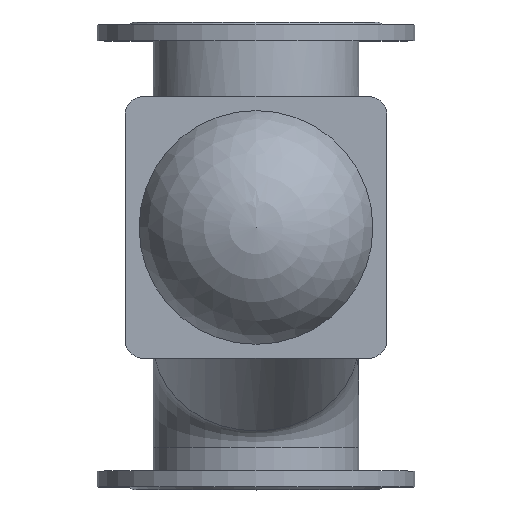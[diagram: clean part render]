
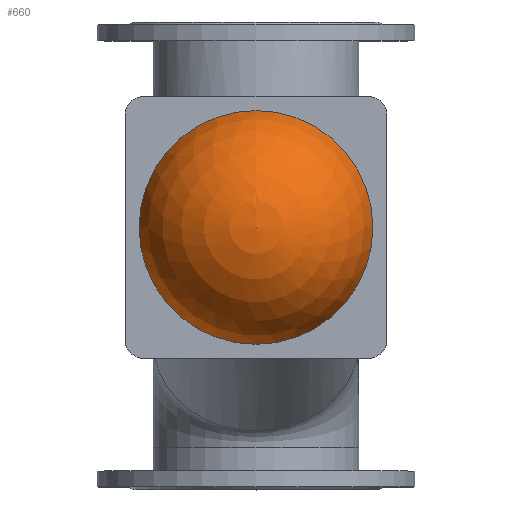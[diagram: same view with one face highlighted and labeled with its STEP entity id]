
A CAD part, top view. The second image highlights one B-rep face of the part: STEP entity #660.
In plain terms, the highlighted spherical face has radius 128.125 mm.
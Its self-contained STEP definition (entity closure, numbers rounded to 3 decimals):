
#660=ADVANCED_FACE('',(#1540),#1542,.T.);
#1540=FACE_OUTER_BOUND('',#1541,.T.);
#1541=EDGE_LOOP('',(#1901));
#1542=SPHERICAL_SURFACE('',#1543,128.125);
#1543=AXIS2_PLACEMENT_3D('',#1544,#1545,#1546);
#1544=CARTESIAN_POINT('',(0.,30.,269.875));
#1545=DIRECTION('',(0.,0.,-1.));
#1546=DIRECTION('',(0.,1.,0.));
#1901=ORIENTED_EDGE('',*,*,#2082,.T.);
#2082=EDGE_CURVE('',#2356,#2356,#2357,.F.);
#2356=VERTEX_POINT('',#3424);
#2357=CIRCLE('',#3425,125.);
#3424=CARTESIAN_POINT('',(0.,155.,298.));
#3425=AXIS2_PLACEMENT_3D('',#3426,#3427,#3428);
#3426=CARTESIAN_POINT('',(0.,30.,298.));
#3427=DIRECTION('',(0.,0.,-1.));
#3428=DIRECTION('',(0.,1.,0.));
